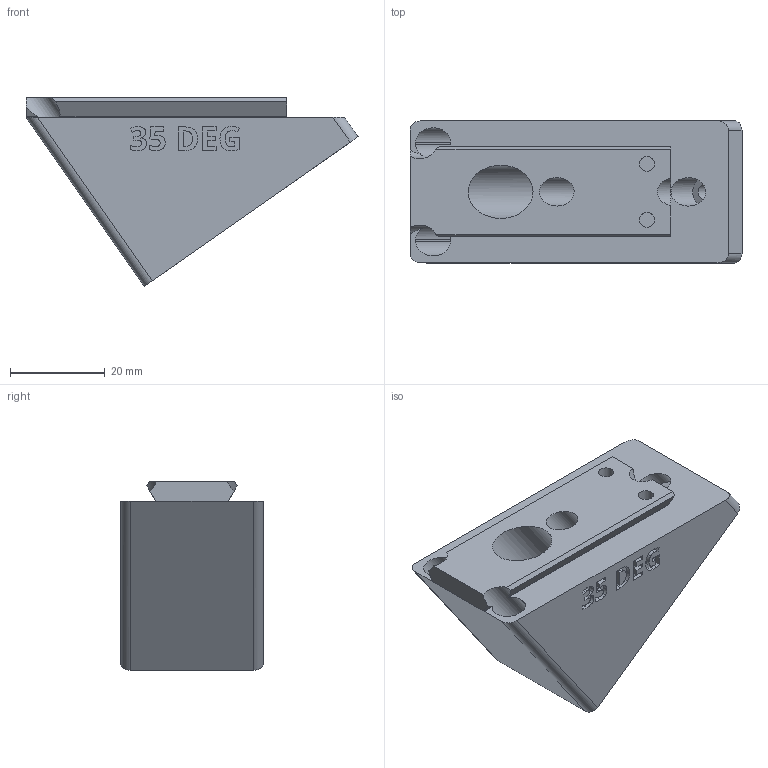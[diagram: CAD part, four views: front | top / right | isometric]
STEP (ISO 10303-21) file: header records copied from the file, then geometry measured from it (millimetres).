
FILE_DESCRIPTION(/* description */ ('STEP AP242 Edition 2','CAx-IF Rec.Pracs.---Representation and Presentation of Product Manufacturing Information (PMI)---4.0---2014-10-13','CAx-IF Rec.Pracs.---3D Tessellated Geometry---0.4---2014-09-14','2;1','CAx-IF Rec.Pracs.---User Defined Attributes---1.5---2016-08-15'),/* implementation_level */ '2;1');
FILE_NAME(/* name */ 'Camera Wedges - CAMERA MOUNTING WEDGE, POS, 35 DEG',/* time_stamp */ '2026-07-08T20:39:52Z',/* author */ (''),/* organization */ (''),/* preprocessor_version */ 'ST-DEVELOPER v20',/* originating_system */ 'ONSHAPE BY PTC INC, 1.217',/* authorisation */ ' ');
FILE_SCHEMA (('AP242_MANAGED_MODEL_BASED_3D_ENGINEERING_MIM_LF { 1 0 10303 442 3 1 4 }'));
Length unit declared in the file: metre
Products named in the file (1): CAMERA MOUNTING WEDGE, POS, 35 DEG
Bounding box: 70.01 x 30 x 39.74 mm (x, y, z)
Volume: 36248.2 mm3; surface area: 12132.1 mm2
Topology: 1 solids, 1 shells, 268 faces, 745 edges, 497 vertices
Faces by surface type: plane 137, bspline 78, cylinder 53
Full cylindrical faces by diameter (mm): 3.2 x4, 6 x2, 6.4 x1, 11.2 x1
Entity records: 8802 total; most frequent: CARTESIAN_POINT 2355, ORIENTED_EDGE 1468, DIRECTION 1078, EDGE_CURVE 734, VERTEX_POINT 494, LINE 460, VECTOR 460, AXIS2_PLACEMENT_3D 309
